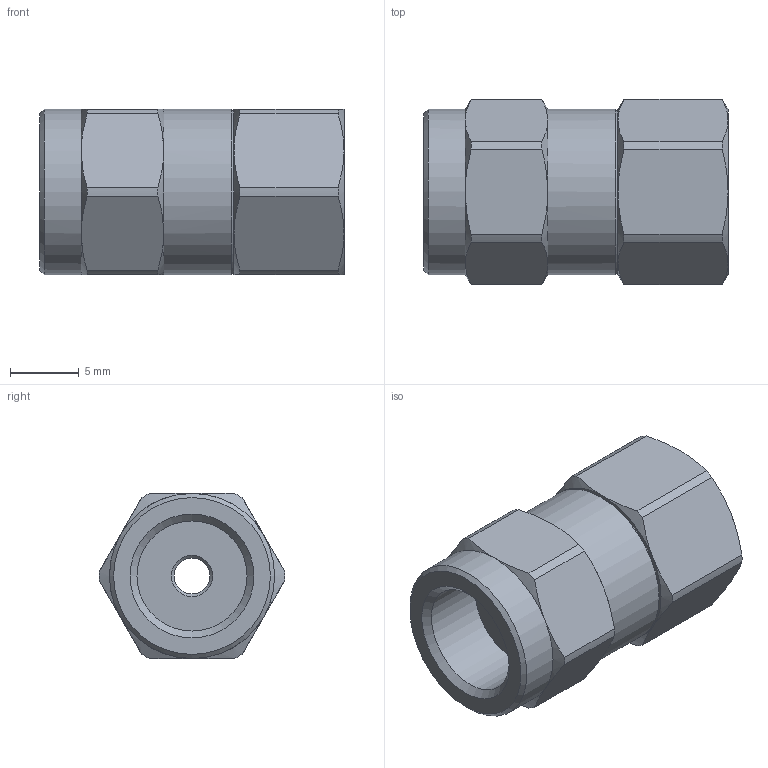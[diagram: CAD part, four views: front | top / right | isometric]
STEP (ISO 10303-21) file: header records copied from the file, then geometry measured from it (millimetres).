
FILE_DESCRIPTION(('STEP AP214'),'1');
FILE_NAME('BVP-10-A30.stp','2026-02-02T07:56:23',(' '),(' '),'Spatial InterOp 3D',' ',' ');
FILE_SCHEMA(('AUTOMOTIVE_DESIGN { 1 0 10303 214 1 1 1 1 }'));
Length unit declared in the file: millimetre
Products named in the file (1): BVP-10-A30
Bounding box: 22.1 x 13.5 x 12 mm (x, y, z)
Volume: 1994.7 mm3; surface area: 1650.1 mm2
Topology: 1 solids, 2 shells, 79 faces, 194 edges, 126 vertices
Faces by surface type: cone 34, plane 23, cylinder 22
Full cylindrical faces by diameter (mm): 2.6 x2, 4.7 x1, 7 x1, 7.75 x1, 8 x2, 8.1 x1, 12 x2
Entity records: 3174 total; most frequent: CARTESIAN_POINT 534, DIRECTION 326, ORIENTED_EDGE 322, EDGE_CURVE 161, AXIS2_PLACEMENT_3D 157, STYLED_ITEM 155, PRESENTATION_STYLE_ASSIGNMENT 155, COLOUR_RGB 155
